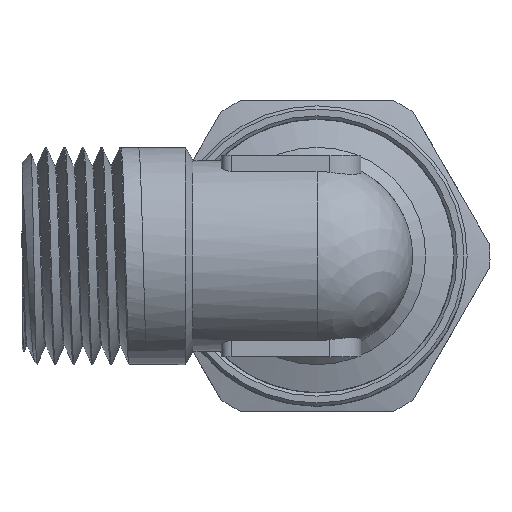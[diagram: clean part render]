
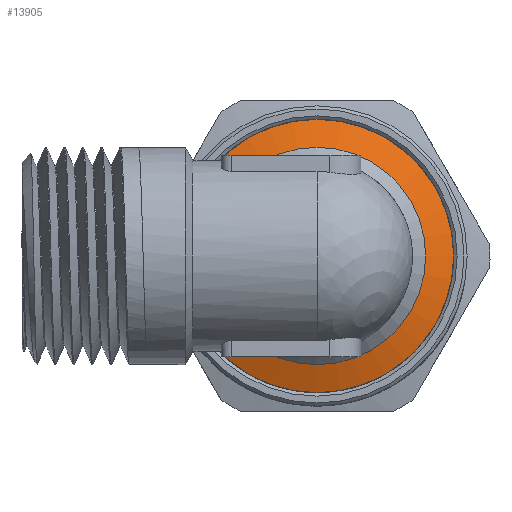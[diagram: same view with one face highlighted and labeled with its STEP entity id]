
A CAD part, left-side view. The second image highlights one B-rep face of the part: STEP entity #13905.
In plain terms, the highlighted conical face has half-angle 70 degrees and reference radius 11.85 mm.
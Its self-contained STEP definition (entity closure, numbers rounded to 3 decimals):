
#2323=FACE_OUTER_BOUND('',#3129,.T.);
#3129=EDGE_LOOP('',(#12784,#12785,#12786,#12787,#12788));
#4135=LINE('',#32099,#5095);
#5095=VECTOR('',#16635,11.85);
#5181=CIRCLE('',#14184,13.2);
#5293=CIRCLE('',#14484,10.5);
#5294=CIRCLE('',#14485,10.5);
#5751=VERTEX_POINT('',#20860);
#6736=VERTEX_POINT('',#32093);
#6737=VERTEX_POINT('',#32095);
#7324=EDGE_CURVE('',#5751,#5751,#5181,.T.);
#8794=EDGE_CURVE('',#6736,#6737,#5293,.T.);
#8795=EDGE_CURVE('',#6737,#6736,#5294,.T.);
#8796=EDGE_CURVE('',#6736,#5751,#4135,.T.);
#12784=ORIENTED_EDGE('',*,*,#8795,.F.);
#12785=ORIENTED_EDGE('',*,*,#8794,.F.);
#12786=ORIENTED_EDGE('',*,*,#8796,.T.);
#12787=ORIENTED_EDGE('',*,*,#7324,.T.);
#12788=ORIENTED_EDGE('',*,*,#8796,.F.);
#13206=CONICAL_SURFACE('',#14486,11.85,1.222);
#13905=ADVANCED_FACE('',(#2323),#13206,.T.);
#14184=AXIS2_PLACEMENT_3D('',#21174,#15367,#15368);
#14484=AXIS2_PLACEMENT_3D('',#32096,#16629,#16630);
#14485=AXIS2_PLACEMENT_3D('',#32097,#16631,#16632);
#14486=AXIS2_PLACEMENT_3D('',#32098,#16633,#16634);
#15367=DIRECTION('center_axis',(-1.,0.,0.));
#15368=DIRECTION('ref_axis',(0.,0.,1.));
#16629=DIRECTION('center_axis',(-1.,0.,0.));
#16630=DIRECTION('ref_axis',(0.,0.,1.));
#16631=DIRECTION('center_axis',(-1.,0.,0.));
#16632=DIRECTION('ref_axis',(0.,0.,1.));
#16633=DIRECTION('center_axis',(1.,0.,0.));
#16634=DIRECTION('ref_axis',(0.,-1.,0.));
#16635=DIRECTION('',(0.342,0.94,0.));
#20860=CARTESIAN_POINT('',(18.,13.2,0.));
#21174=CARTESIAN_POINT('Origin',(18.,0.,0.));
#32093=CARTESIAN_POINT('',(17.017,10.5,0.));
#32095=CARTESIAN_POINT('',(17.017,-10.5,0.));
#32096=CARTESIAN_POINT('Origin',(17.017,0.,0.));
#32097=CARTESIAN_POINT('Origin',(17.017,0.,0.));
#32098=CARTESIAN_POINT('Origin',(17.509,0.,0.));
#32099=CARTESIAN_POINT('',(17.509,11.85,0.));
